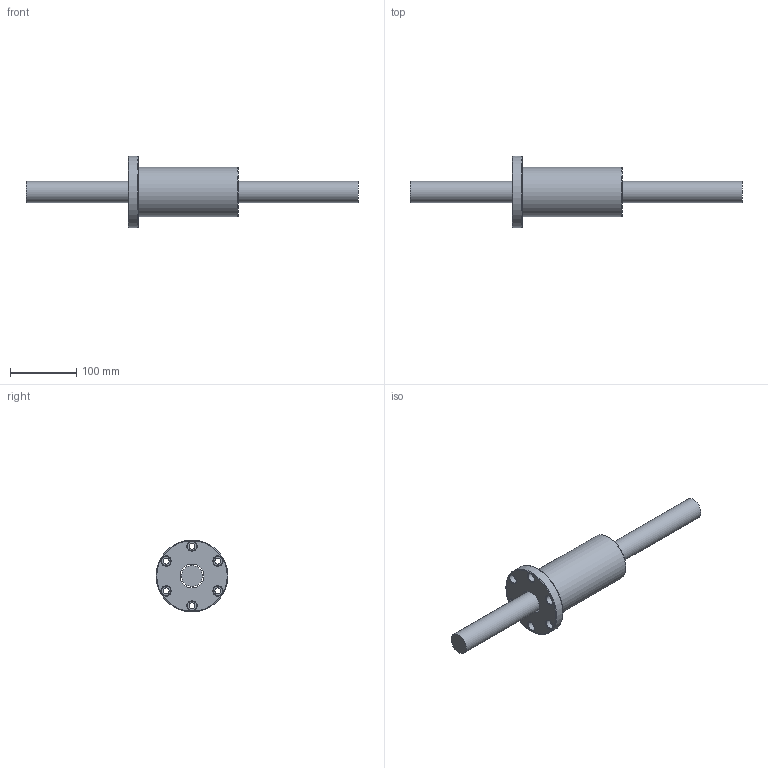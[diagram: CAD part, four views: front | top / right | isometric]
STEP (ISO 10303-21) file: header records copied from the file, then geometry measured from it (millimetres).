
FILE_DESCRIPTION (( 'STEP AP203' ), '1' );
FILE_NAME ('OFV03210N-4.8.step', '2024-05-20T06:10:00', ( '' ), ( '' ), 'SwSTEP 2.0', 'SolidWorks 2022', '' );
FILE_SCHEMA (( 'CONFIG_CONTROL_DESIGN' ));
Length unit declared in the file: millimetre
Products named in the file (1): OFV03210N-4.8
Bounding box: 500 x 108 x 108 mm (x, y, z)
Volume: 1006849.3 mm3; surface area: 129766 mm2
Topology: 2 solids, 2 shells, 57 faces, 121 edges, 75 vertices
Faces by surface type: cylinder 24, cone 13, plane 12, bspline 5, torus 3
Full cylindrical faces by diameter (mm): 4 x1, 7 x6, 9 x6, 14 x6, 32 x1, 36.1 x1, 74 x1, 108 x1
Entity records: 3007 total; most frequent: CARTESIAN_POINT 2008, DIRECTION 196, ORIENTED_EDGE 126, EDGE_LOOP 108, AXIS2_PLACEMENT_3D 96, FACE_OUTER_BOUND 72, EDGE_CURVE 63, VERTEX_POINT 59
